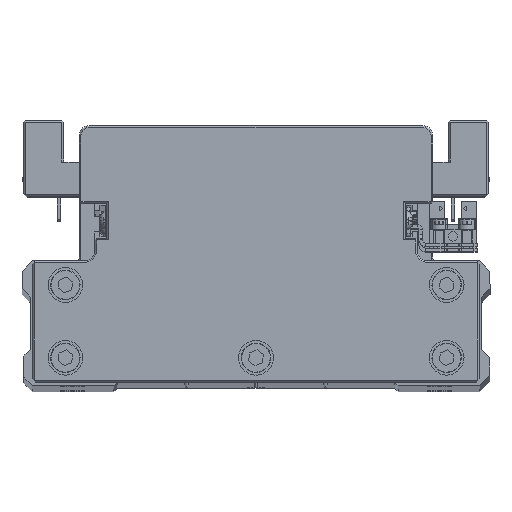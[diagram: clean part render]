
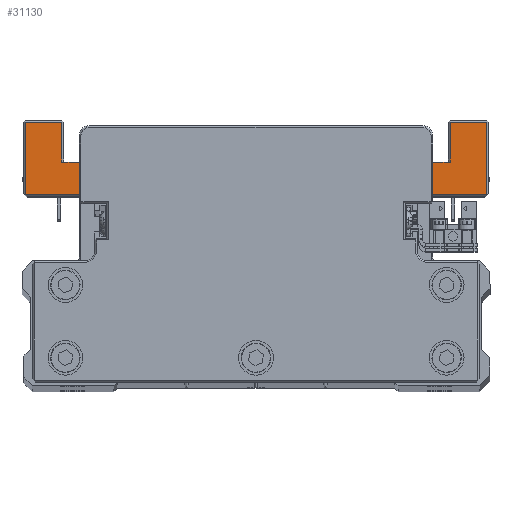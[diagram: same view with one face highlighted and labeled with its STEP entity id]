
A CAD part, top view. The second image highlights one B-rep face of the part: STEP entity #31130.
In plain terms, the highlighted planar face has unit normal (0, 0, 1) as drawn and (0, -1, 0) by its records, which use the part's own axes.
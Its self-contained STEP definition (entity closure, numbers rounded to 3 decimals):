
#129 = VECTOR ( 'NONE', #31921, 1000. ) ;
#311 = VECTOR ( 'NONE', #5756, 1000. ) ;
#1217 = ORIENTED_EDGE ( 'NONE', *, *, #22612, .T. ) ;
#1366 = LINE ( 'NONE', #13797, #6208 ) ;
#2089 = ORIENTED_EDGE ( 'NONE', *, *, #39945, .T. ) ;
#2158 = CARTESIAN_POINT ( 'NONE',  ( -56., -45., -52.5 ) ) ;
#2910 = DIRECTION ( 'NONE',  ( -1., 0., 0. ) ) ;
#2956 = LINE ( 'NONE', #15386, #23708 ) ;
#3247 = CARTESIAN_POINT ( 'NONE',  ( 40.066, -45., -43. ) ) ;
#3629 = EDGE_CURVE ( 'NONE', #26820, #9276, #31692, .T. ) ;
#3792 = CARTESIAN_POINT ( 'NONE',  ( -56., -45., -52.5 ) ) ;
#4310 = CARTESIAN_POINT ( 'NONE',  ( -46., -45., -54. ) ) ;
#4359 = LINE ( 'NONE', #16791, #24032 ) ;
#4469 = VECTOR ( 'NONE', #10021, 1000. ) ;
#4767 = ORIENTED_EDGE ( 'NONE', *, *, #9933, .T. ) ;
#5145 = CARTESIAN_POINT ( 'NONE',  ( -39.868, -45., -42.987 ) ) ;
#5756 = DIRECTION ( 'NONE',  ( 0., 0., -1. ) ) ;
#5881 = VERTEX_POINT ( 'NONE', #9596 ) ;
#6208 = VECTOR ( 'NONE', #26211, 1000. ) ;
#6357 = DIRECTION ( 'NONE',  ( 0., 0., -1. ) ) ;
#6462 = CIRCLE ( 'NONE', #29242, 1.5 ) ;
#6590 = CARTESIAN_POINT ( 'NONE',  ( -55.5, -45., -64. ) ) ;
#6727 = AXIS2_PLACEMENT_3D ( 'NONE', #21845, #34277, #6357 ) ;
#6760 = EDGE_CURVE ( 'NONE', #7572, #26896, #25537, .T. ) ;
#6975 = DIRECTION ( 'NONE',  ( 0., 1., 0. ) ) ;
#7053 = LINE ( 'NONE', #19476, #129 ) ;
#7255 = CARTESIAN_POINT ( 'NONE',  ( 66.5, -45., -64. ) ) ;
#7356 = VERTEX_POINT ( 'NONE', #26091 ) ;
#7380 = LINE ( 'NONE', #19801, #29197 ) ;
#7572 = VERTEX_POINT ( 'NONE', #18321 ) ;
#8869 = DIRECTION ( 'NONE',  ( 0., 0., 1. ) ) ;
#9276 = VERTEX_POINT ( 'NONE', #2158 ) ;
#9550 = LINE ( 'NONE', #21969, #24236 ) ;
#9596 = CARTESIAN_POINT ( 'NONE',  ( 36.217, -45., -42.5 ) ) ;
#9784 = EDGE_CURVE ( 'NONE', #29268, #9276, #18376, .T. ) ;
#9805 = DIRECTION ( 'NONE',  ( 0., -1., 0. ) ) ;
#9933 = EDGE_CURVE ( 'NONE', #24364, #11440, #25490, .T. ) ;
#10007 = LINE ( 'NONE', #22429, #13161 ) ;
#10021 = DIRECTION ( 'NONE',  ( -1., 0., 0. ) ) ;
#10071 = DIRECTION ( 'NONE',  ( 0., 0., -1. ) ) ;
#10435 = ORIENTED_EDGE ( 'NONE', *, *, #39006, .T. ) ;
#10512 = ORIENTED_EDGE ( 'NONE', *, *, #37235, .T. ) ;
#11241 = CARTESIAN_POINT ( 'NONE',  ( -66.5, -45., -43. ) ) ;
#11440 = VERTEX_POINT ( 'NONE', #11241 ) ;
#12295 = EDGE_CURVE ( 'NONE', #39450, #17915, #21231, .T. ) ;
#12627 = ORIENTED_EDGE ( 'NONE', *, *, #3629, .T. ) ;
#12862 = FACE_OUTER_BOUND ( 'NONE', #35313, .T. ) ;
#13161 = VECTOR ( 'NONE', #34855, 1000. ) ;
#13797 = CARTESIAN_POINT ( 'NONE',  ( -46., -45., -52.5 ) ) ;
#14913 = VERTEX_POINT ( 'NONE', #4310 ) ;
#15239 = CARTESIAN_POINT ( 'NONE',  ( -39.868, -45., -42.987 ) ) ;
#15386 = CARTESIAN_POINT ( 'NONE',  ( 46., -45., -54. ) ) ;
#15619 = VERTEX_POINT ( 'NONE', #26827 ) ;
#15672 = DIRECTION ( 'NONE',  ( -1., 0., 0. ) ) ;
#16222 = DIRECTION ( 'NONE',  ( 0., 0., 1. ) ) ;
#16791 = CARTESIAN_POINT ( 'NONE',  ( 67., -45., -64. ) ) ;
#17574 = DIRECTION ( 'NONE',  ( -0.991, 0., -0.132 ) ) ;
#17645 = ORIENTED_EDGE ( 'NONE', *, *, #19322, .T. ) ;
#17915 = VERTEX_POINT ( 'NONE', #27339 ) ;
#18001 = ORIENTED_EDGE ( 'NONE', *, *, #18981, .T. ) ;
#18321 = CARTESIAN_POINT ( 'NONE',  ( 56., -45., -52.5 ) ) ;
#18376 = LINE ( 'NONE', #30815, #20723 ) ;
#18981 = EDGE_CURVE ( 'NONE', #26927, #5881, #7053, .T. ) ;
#19006 = DIRECTION ( 'NONE',  ( 1., 0., 0. ) ) ;
#19322 = EDGE_CURVE ( 'NONE', #5881, #7356, #10007, .T. ) ;
#19395 = VECTOR ( 'NONE', #10071, 1000. ) ;
#19403 = DIRECTION ( 'NONE',  ( 0., 0., -1. ) ) ;
#19476 = CARTESIAN_POINT ( 'NONE',  ( 25.802, -45., -41.111 ) ) ;
#19801 = CARTESIAN_POINT ( 'NONE',  ( 55.5, -45., -52.5 ) ) ;
#20074 = ORIENTED_EDGE ( 'NONE', *, *, #35701, .T. ) ;
#20098 = EDGE_CURVE ( 'NONE', #11440, #15619, #9550, .T. ) ;
#20723 = VECTOR ( 'NONE', #2910, 1000. ) ;
#21231 = LINE ( 'NONE', #33666, #311 ) ;
#21845 = CARTESIAN_POINT ( 'NONE',  ( 40.066, -45., -41.5 ) ) ;
#21969 = CARTESIAN_POINT ( 'NONE',  ( -66.5, -45., -64.5 ) ) ;
#22142 = EDGE_CURVE ( 'NONE', #14913, #17915, #2956, .T. ) ;
#22226 = DIRECTION ( 'NONE',  ( 0., 0., -1. ) ) ;
#22429 = CARTESIAN_POINT ( 'NONE',  ( -77.786, -45., -42.5 ) ) ;
#22612 = EDGE_CURVE ( 'NONE', #23412, #26927, #24289, .T. ) ;
#22741 = CARTESIAN_POINT ( 'NONE',  ( -40.066, -45., -43. ) ) ;
#23412 = VERTEX_POINT ( 'NONE', #27063 ) ;
#23708 = VECTOR ( 'NONE', #27809, 1000. ) ;
#23771 = ORIENTED_EDGE ( 'NONE', *, *, #22142, .T. ) ;
#24032 = VECTOR ( 'NONE', #29222, 1000. ) ;
#24236 = VECTOR ( 'NONE', #34410, 1000. ) ;
#24289 = CIRCLE ( 'NONE', #6727, 1.5 ) ;
#24341 = LINE ( 'NONE', #36784, #27914 ) ;
#24364 = VERTEX_POINT ( 'NONE', #22741 ) ;
#24382 = VERTEX_POINT ( 'NONE', #7255 ) ;
#24951 = ORIENTED_EDGE ( 'NONE', *, *, #27445, .F. ) ;
#25038 = CARTESIAN_POINT ( 'NONE',  ( -56., -45., -64. ) ) ;
#25118 = LINE ( 'NONE', #6590, #28573 ) ;
#25274 = PLANE ( 'NONE',  #38937 ) ;
#25436 = CARTESIAN_POINT ( 'NONE',  ( 56., -45., -64. ) ) ;
#25456 = EDGE_CURVE ( 'NONE', #29043, #23412, #31155, .T. ) ;
#25490 = LINE ( 'NONE', #37923, #4469 ) ;
#25537 = LINE ( 'NONE', #37970, #19395 ) ;
#25765 = ORIENTED_EDGE ( 'NONE', *, *, #37029, .T. ) ;
#26091 = CARTESIAN_POINT ( 'NONE',  ( -36.217, -45., -42.5 ) ) ;
#26211 = DIRECTION ( 'NONE',  ( 0., 0., 1. ) ) ;
#26569 = ORIENTED_EDGE ( 'NONE', *, *, #12295, .F. ) ;
#26820 = VERTEX_POINT ( 'NONE', #25038 ) ;
#26827 = CARTESIAN_POINT ( 'NONE',  ( -66.5, -45., -64. ) ) ;
#26896 = VERTEX_POINT ( 'NONE', #25436 ) ;
#26927 = VERTEX_POINT ( 'NONE', #31978 ) ;
#27063 = CARTESIAN_POINT ( 'NONE',  ( 40.066, -45., -43. ) ) ;
#27174 = VERTEX_POINT ( 'NONE', #15239 ) ;
#27339 = CARTESIAN_POINT ( 'NONE',  ( 46., -45., -54. ) ) ;
#27445 = EDGE_CURVE ( 'NONE', #14913, #29268, #1366, .T. ) ;
#27809 = DIRECTION ( 'NONE',  ( 1., 0., 0. ) ) ;
#27914 = VECTOR ( 'NONE', #8869, 1000. ) ;
#28177 = ORIENTED_EDGE ( 'NONE', *, *, #25456, .T. ) ;
#28573 = VECTOR ( 'NONE', #19006, 1000. ) ;
#28902 = ORIENTED_EDGE ( 'NONE', *, *, #31421, .F. ) ;
#29043 = VERTEX_POINT ( 'NONE', #37001 ) ;
#29197 = VECTOR ( 'NONE', #32249, 1000. ) ;
#29222 = DIRECTION ( 'NONE',  ( 1., 0., 0. ) ) ;
#29242 = AXIS2_PLACEMENT_3D ( 'NONE', #34893, #6975, #19403 ) ;
#29268 = VERTEX_POINT ( 'NONE', #35560 ) ;
#29919 = CARTESIAN_POINT ( 'NONE',  ( 46., -45., -52.5 ) ) ;
#30815 = CARTESIAN_POINT ( 'NONE',  ( -55.5, -45., -52.5 ) ) ;
#31130 = ADVANCED_FACE ( 'NONE', ( #12862 ), #25274, .T. ) ;
#31155 = LINE ( 'NONE', #3247, #39620 ) ;
#31421 = EDGE_CURVE ( 'NONE', #7572, #39450, #7380, .T. ) ;
#31692 = LINE ( 'NONE', #3792, #39841 ) ;
#31921 = DIRECTION ( 'NONE',  ( -0.991, 0., 0.132 ) ) ;
#31978 = CARTESIAN_POINT ( 'NONE',  ( 39.868, -45., -42.987 ) ) ;
#32249 = DIRECTION ( 'NONE',  ( -1., 0., 0. ) ) ;
#32846 = ORIENTED_EDGE ( 'NONE', *, *, #9784, .F. ) ;
#33053 = LINE ( 'NONE', #5145, #33132 ) ;
#33132 = VECTOR ( 'NONE', #17574, 1000. ) ;
#33666 = CARTESIAN_POINT ( 'NONE',  ( 46., -45., -52.5 ) ) ;
#34277 = DIRECTION ( 'NONE',  ( 0., 1., 0. ) ) ;
#34410 = DIRECTION ( 'NONE',  ( 0., 0., -1. ) ) ;
#34855 = DIRECTION ( 'NONE',  ( -1., 0., 0. ) ) ;
#34893 = CARTESIAN_POINT ( 'NONE',  ( -40.066, -45., -41.5 ) ) ;
#35313 = EDGE_LOOP ( 'NONE', ( #17645, #10512, #20074, #4767, #38286, #25765, #12627, #32846, #24951, #23771, #26569, #28902, #36761, #10435, #2089, #28177, #1217, #18001 ) ) ;
#35560 = CARTESIAN_POINT ( 'NONE',  ( -46., -45., -52.5 ) ) ;
#35701 = EDGE_CURVE ( 'NONE', #27174, #24364, #6462, .T. ) ;
#36761 = ORIENTED_EDGE ( 'NONE', *, *, #6760, .T. ) ;
#36784 = CARTESIAN_POINT ( 'NONE',  ( 66.5, -45., -43.5 ) ) ;
#37001 = CARTESIAN_POINT ( 'NONE',  ( 66.5, -45., -43. ) ) ;
#37029 = EDGE_CURVE ( 'NONE', #15619, #26820, #25118, .T. ) ;
#37235 = EDGE_CURVE ( 'NONE', #7356, #27174, #33053, .T. ) ;
#37712 = CARTESIAN_POINT ( 'NONE',  ( 0., -45., 0. ) ) ;
#37923 = CARTESIAN_POINT ( 'NONE',  ( -66., -45., -43. ) ) ;
#37970 = CARTESIAN_POINT ( 'NONE',  ( 56., -45., -64.5 ) ) ;
#38286 = ORIENTED_EDGE ( 'NONE', *, *, #20098, .T. ) ;
#38937 = AXIS2_PLACEMENT_3D ( 'NONE', #37712, #9805, #22226 ) ;
#39006 = EDGE_CURVE ( 'NONE', #26896, #24382, #4359, .T. ) ;
#39450 = VERTEX_POINT ( 'NONE', #29919 ) ;
#39620 = VECTOR ( 'NONE', #15672, 1000. ) ;
#39841 = VECTOR ( 'NONE', #16222, 1000. ) ;
#39945 = EDGE_CURVE ( 'NONE', #24382, #29043, #24341, .T. ) ;
